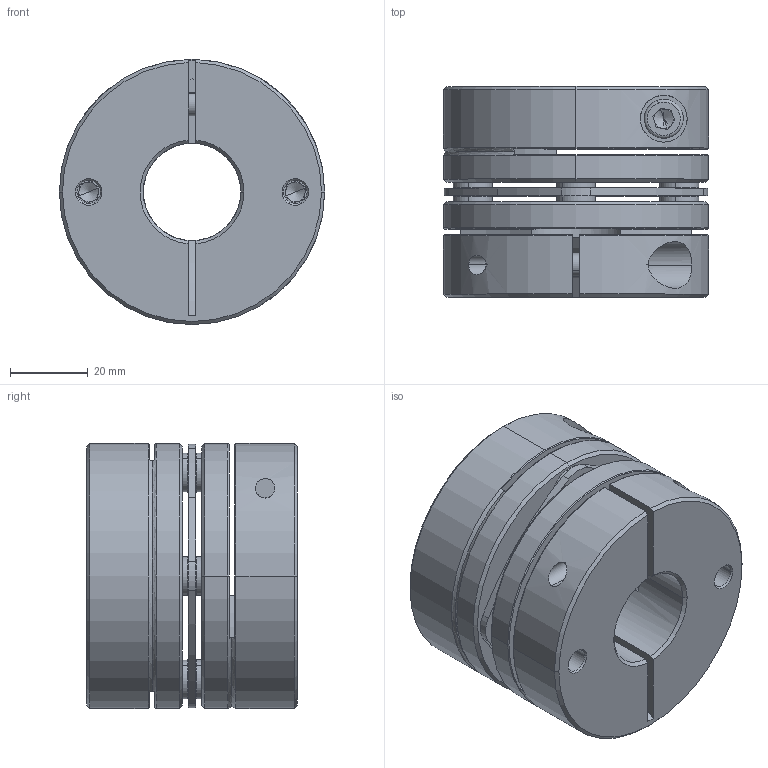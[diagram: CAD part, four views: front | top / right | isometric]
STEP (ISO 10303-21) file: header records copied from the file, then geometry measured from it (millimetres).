
FILE_DESCRIPTION (( 'STEP AP203' ), '1' );
FILE_NAME ('LD1-D68-25-25.STEP', '2021-10-26T08:01:46', ( '' ), ( '' ), 'SwSTEP 2.0', 'SolidWorks 2018', '' );
FILE_SCHEMA (( 'CONFIG_CONTROL_DESIGN' ));
Length unit declared in the file: millimetre
Products named in the file (2): 錨璃101^LD1-D68; LD1-D68-25-25
Assembly tree (1 placements, depth 2):
  LD1-D68-25-25
    錨璃101^LD1-D68
Bounding box: 68 x 54 x 68 mm (x, y, z)
Volume: 142976.6 mm3; surface area: 46115.7 mm2
Topology: 1 solids, 15 shells, 441 faces, 1047 edges, 642 vertices
Faces by surface type: cylinder 161, plane 136, cone 122, torus 22
Entity records: 13321 total; most frequent: CARTESIAN_POINT 2590, DIRECTION 2405, ORIENTED_EDGE 2062, EDGE_CURVE 1031, AXIS2_PLACEMENT_3D 977, VERTEX_POINT 642, CIRCLE 532, EDGE_LOOP 521
